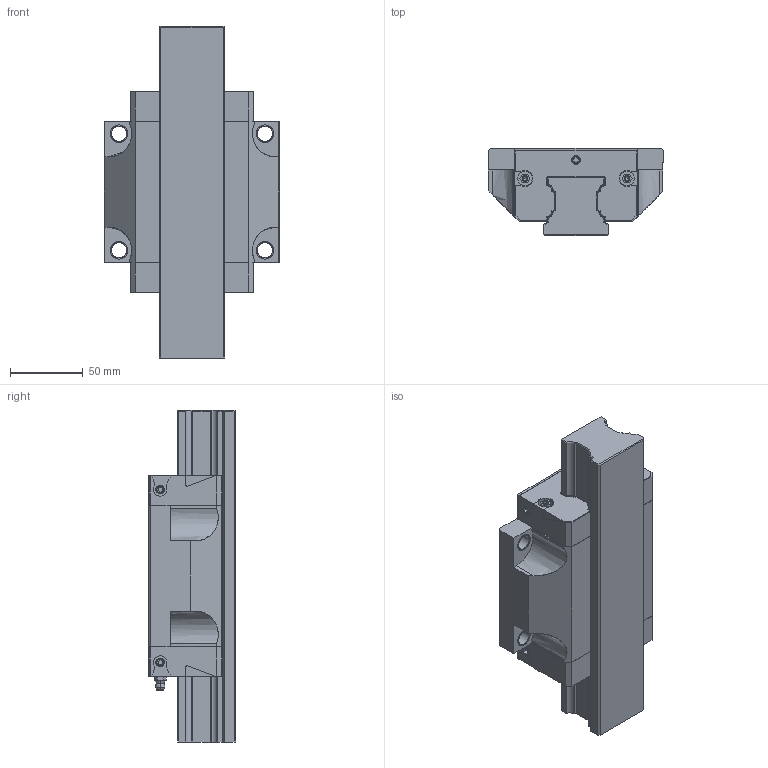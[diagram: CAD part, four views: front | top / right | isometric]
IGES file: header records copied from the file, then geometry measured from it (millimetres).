
Start section: 3D InterOp IGES (v. 2019 1.0.2), Spatial Corp. Copyright (c) 1999-2017.
Global section: file name: R2001_size45.igs; native system: Spatial Corp.; preprocessor: 3D InterOp GENERIC/IGES 3.0; author: Noname; organization: Noname; date: 20220629.154332; units: millimetre
Bounding box: 120 x 60 x 227.6 mm (x, y, z)
Surface area: 136710 mm2 (no closed solid volume)
Topology: 0 solids, 0 shells, 575 faces, 3236 edges, 3214 vertices
Faces by surface type: extrusion 318, revolution 257
